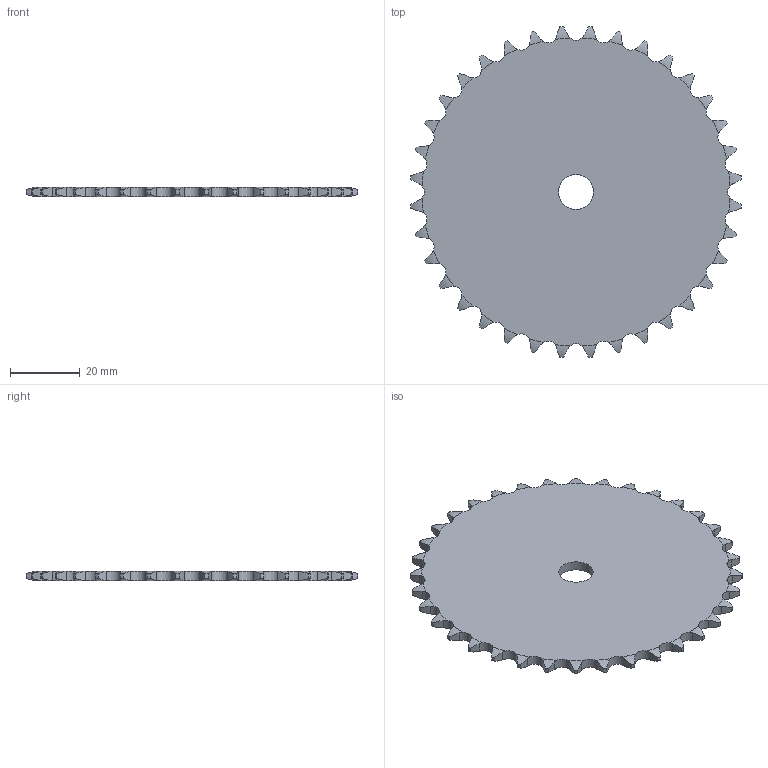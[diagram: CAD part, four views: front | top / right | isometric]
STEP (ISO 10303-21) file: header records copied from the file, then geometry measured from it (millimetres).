
FILE_DESCRIPTION((''),'2;1');
FILE_NAME('500-081-0036_PRT','2021-02-12T',('Brieden'),('Brieden'),'PRO/ENGINEER BY PARAMETRIC TECHNOLOGY CORPORATION, 2010160','PRO/ENGINEER BY PARAMETRIC TECHNOLOGY CORPORATION, 2010160','');
FILE_SCHEMA(('AUTOMOTIVE_DESIGN { 1 0 10303 214 1 1 1 1 }'));
Length unit declared in the file: millimetre
Products named in the file (1): 500-081-0036_PRT
Bounding box: 94.72 x 94.72 x 2.8 mm (x, y, z)
Volume: 17464.5 mm3; surface area: 13719 mm2
Topology: 1 solids, 1 shells, 220 faces, 654 edges, 436 vertices
Faces by surface type: cylinder 146, torus 72, plane 2
Entity records: 10442 total; most frequent: CARTESIAN_POINT 2857, ORIENTED_EDGE 1308, DIRECTION 1026, PRESENTATION_STYLE_ASSIGNMENT 655, STYLED_ITEM 655, CURVE_STYLE 654, EDGE_CURVE 654, AXIS2_PLACEMENT_3D 440
